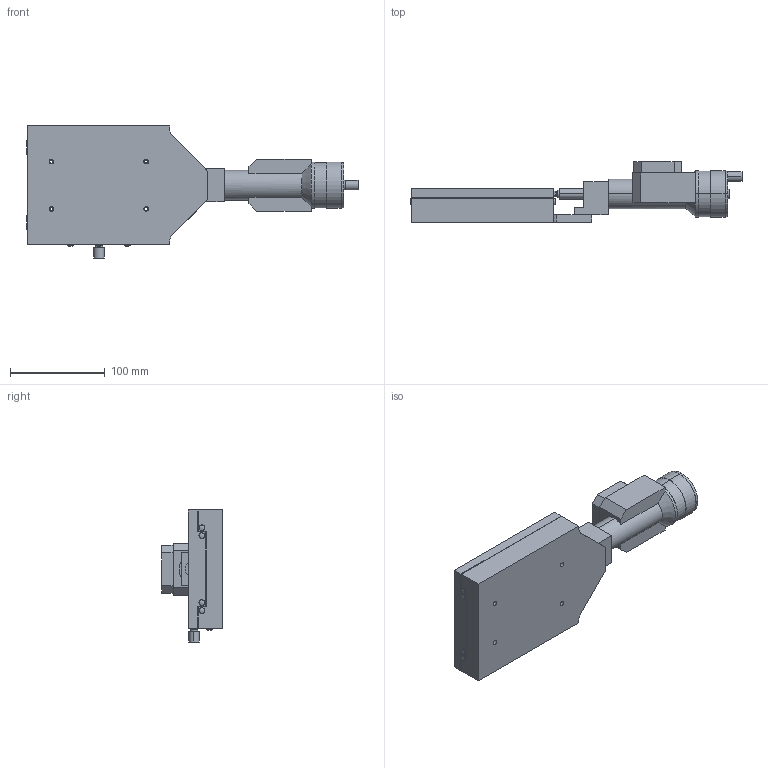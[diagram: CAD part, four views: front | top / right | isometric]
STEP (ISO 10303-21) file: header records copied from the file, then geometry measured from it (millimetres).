
FILE_DESCRIPTION (( 'STEP AP203' ), '1' );
FILE_NAME ('LS-243-C7.STEP', '2012-10-18T08:08:02', ( '' ), ( '' ), 'SwSTEP 2.0', 'SolidWorks 2011', '' );
FILE_SCHEMA (( 'CONFIG_CONTROL_DESIGN' ));
Length unit declared in the file: millimetre
Products named in the file (3): LS-243-C7; LS-243-C7-2; LS-243-C7-1
Assembly tree (2 placements, depth 2):
  LS-243-C7
    LS-243-C7-2
    LS-243-C7-1
Bounding box: 350.32 x 64 x 139.3 mm (x, y, z)
Volume: 947660.8 mm3; surface area: 148616.4 mm2
Topology: 3 solids, 4 shells, 322 faces, 767 edges, 505 vertices
Faces by surface type: cylinder 159, plane 126, cone 24, bspline 11, sphere 2
Entity records: 12103 total; most frequent: CARTESIAN_POINT 3909, DIRECTION 1746, ORIENTED_EDGE 1534, EDGE_CURVE 767, AXIS2_PLACEMENT_3D 688, VERTEX_POINT 505, EDGE_LOOP 436, CIRCLE 372
